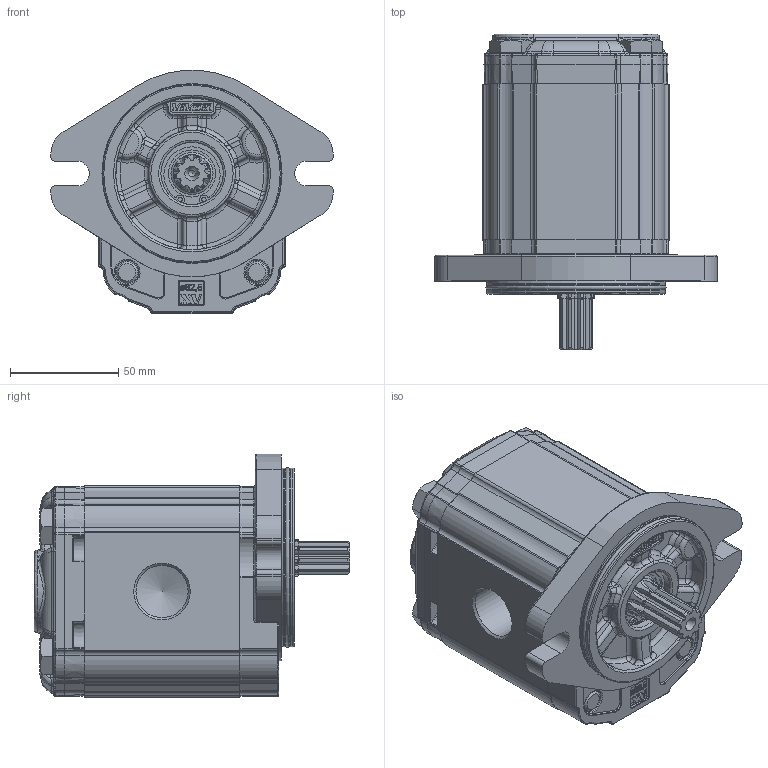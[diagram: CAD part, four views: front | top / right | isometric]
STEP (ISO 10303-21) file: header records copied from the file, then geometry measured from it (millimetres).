
FILE_DESCRIPTION(/* description */ ('Unknown'),/* implementation_level */ '2;1');
FILE_NAME(/* name */ 'X2R5331ICCF',/* time_stamp */ '2021-04-26T12:48:51+02:00',/* author */ ('Unknown'),/* organization */ ('Unknown'),/* preprocessor_version */ 'ST-DEVELOPER v16.7',/* originating_system */ 'Solid Edge',/* authorisation */ 'Unknown');
FILE_SCHEMA (('AUTOMOTIVE_DESIGN {1 0 10303 214 3 1 1}'));
Products named in the file (5): X2R5331ICCF; X2R31; 2I; X2CCH72; XR219-F
Assembly tree (4 placements, depth 2):
  X2R5331ICCF
    X2R31
    2I
    X2CCH72
    XR219-F
Bounding box: 130.38 x 145.7 x 112.3 mm (x, y, z)
Volume: 858648.8 mm3; surface area: 111488.7 mm2
Topology: 4 solids, 5 shells, 2106 faces, 5188 edges, 3159 vertices
Faces by surface type: cylinder 624, plane 572, bspline 513, torus 256, cone 103, sphere 38
Full cylindrical faces by diameter (mm): 2 x2, 10 x4, 10.5 x4, 11 x2, 16 x4, 17.42 x1, 17.48 x2, 18.724 x1, 20.595 x1, 21.741 x1, 24.117 x2, 25.834 x1, 28.56 x1, 28.57 x1, 28.8 x1, 30.4 x1, 79.6 x2, 82.5 x2
Entity records: 87438 total; most frequent: CARTESIAN_POINT 28189, ORIENTED_EDGE 10058, DIRECTION 8420, EDGE_CURVE 5029, AXIS2_PLACEMENT_3D 3198, VERTEX_POINT 3107, FACE_BOUND 2282, EDGE_LOOP 2278
